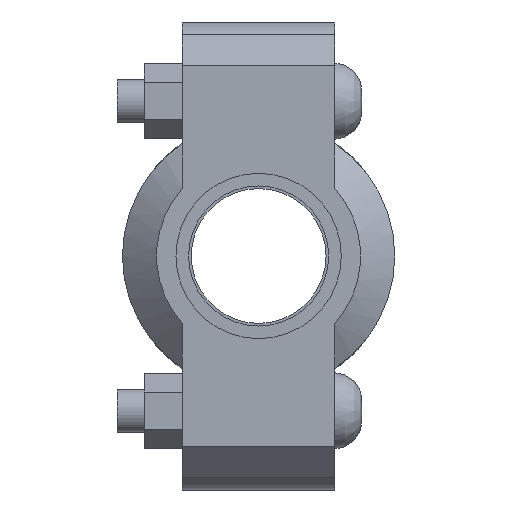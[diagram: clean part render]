
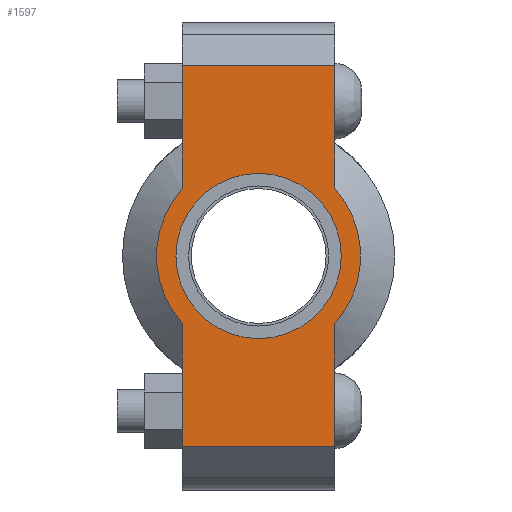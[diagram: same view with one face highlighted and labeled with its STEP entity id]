
A CAD part, left-side view. The second image highlights one B-rep face of the part: STEP entity #1597.
In plain terms, the highlighted planar face has unit normal (-1, 0, 0) as drawn and (0, 0, 1) by its records, which use the part's own axes.
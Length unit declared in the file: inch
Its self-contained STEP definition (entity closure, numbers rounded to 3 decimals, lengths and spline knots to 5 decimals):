
#152=LINE('',#2761,#249);
#167=LINE('',#2820,#264);
#175=LINE('',#2850,#272);
#177=LINE('',#2853,#274);
#178=LINE('',#2858,#275);
#179=LINE('',#2859,#276);
#249=VECTOR('',#2249,0.3937);
#264=VECTOR('',#2284,0.3937);
#272=VECTOR('',#2304,0.3937);
#274=VECTOR('',#2308,0.3937);
#275=VECTOR('',#2313,0.3937);
#276=VECTOR('',#2314,0.3937);
#340=FACE_BOUND('',#517,.T.);
#408=FACE_OUTER_BOUND('',#516,.T.);
#516=EDGE_LOOP('',(#1298,#1299,#1300,#1301,#1302,#1303,#1304,#1305));
#517=EDGE_LOOP('',(#1306));
#599=CIRCLE('',#1825,0.95);
#623=CIRCLE('',#1877,1.172);
#624=CIRCLE('',#1878,1.172);
#695=VERTEX_POINT('',#2587);
#736=VERTEX_POINT('',#2758);
#737=VERTEX_POINT('',#2760);
#758=VERTEX_POINT('',#2815);
#759=VERTEX_POINT('',#2819);
#768=VERTEX_POINT('',#2845);
#769=VERTEX_POINT('',#2849);
#770=VERTEX_POINT('',#2855);
#771=VERTEX_POINT('',#2857);
#859=EDGE_CURVE('',#695,#695,#599,.T.);
#916=EDGE_CURVE('',#737,#736,#152,.T.);
#941=EDGE_CURVE('',#759,#758,#167,.T.);
#954=EDGE_CURVE('',#769,#768,#175,.T.);
#956=EDGE_CURVE('',#769,#736,#177,.T.);
#957=EDGE_CURVE('',#768,#770,#623,.T.);
#958=EDGE_CURVE('',#770,#771,#178,.T.);
#959=EDGE_CURVE('',#759,#771,#179,.T.);
#960=EDGE_CURVE('',#758,#737,#624,.T.);
#1298=ORIENTED_EDGE('',*,*,#956,.F.);
#1299=ORIENTED_EDGE('',*,*,#954,.T.);
#1300=ORIENTED_EDGE('',*,*,#957,.T.);
#1301=ORIENTED_EDGE('',*,*,#958,.T.);
#1302=ORIENTED_EDGE('',*,*,#959,.F.);
#1303=ORIENTED_EDGE('',*,*,#941,.T.);
#1304=ORIENTED_EDGE('',*,*,#960,.T.);
#1305=ORIENTED_EDGE('',*,*,#916,.T.);
#1306=ORIENTED_EDGE('',*,*,#859,.T.);
#1437=PLANE('',#1876);
#1597=ADVANCED_FACE('',(#408,#340),#1437,.T.);
#1825=AXIS2_PLACEMENT_3D('',#2589,#2139,#2140);
#1876=AXIS2_PLACEMENT_3D('',#2854,#2309,#2310);
#1877=AXIS2_PLACEMENT_3D('',#2856,#2311,#2312);
#1878=AXIS2_PLACEMENT_3D('',#2860,#2315,#2316);
#2139=DIRECTION('center_axis',(0.,0.,-1.));
#2140=DIRECTION('ref_axis',(-1.,0.,0.));
#2249=DIRECTION('',(-1.,0.,0.));
#2284=DIRECTION('',(-1.,0.,0.));
#2304=DIRECTION('',(1.,0.,0.));
#2308=DIRECTION('',(0.,1.,0.));
#2309=DIRECTION('center_axis',(0.,0.,1.));
#2310=DIRECTION('ref_axis',(1.,0.,0.));
#2311=DIRECTION('center_axis',(0.,0.,1.));
#2312=DIRECTION('ref_axis',(-1.,0.,0.));
#2313=DIRECTION('',(1.,0.,0.));
#2314=DIRECTION('',(0.,-1.,0.));
#2315=DIRECTION('center_axis',(0.,0.,1.));
#2316=DIRECTION('ref_axis',(-1.,0.,0.));
#2587=CARTESIAN_POINT('',(0.95,0.,0.94));
#2589=CARTESIAN_POINT('Origin',(0.,0.,0.94));
#2758=CARTESIAN_POINT('',(-2.19,0.875,0.94));
#2760=CARTESIAN_POINT('',(-0.77972,0.875,0.94));
#2761=CARTESIAN_POINT('',(2.69,0.875,0.94));
#2815=CARTESIAN_POINT('',(0.77972,0.875,0.94));
#2819=CARTESIAN_POINT('',(2.19,0.875,0.94));
#2820=CARTESIAN_POINT('',(2.69,0.875,0.94));
#2845=CARTESIAN_POINT('',(-0.77972,-0.875,0.94));
#2849=CARTESIAN_POINT('',(-2.19,-0.875,0.94));
#2850=CARTESIAN_POINT('',(-2.69,-0.875,0.94));
#2853=CARTESIAN_POINT('',(-2.19,0.4375,0.94));
#2854=CARTESIAN_POINT('Origin',(0.,0.,0.94));
#2855=CARTESIAN_POINT('',(0.77972,-0.875,0.94));
#2856=CARTESIAN_POINT('Origin',(0.,0.,0.94));
#2857=CARTESIAN_POINT('',(2.19,-0.875,0.94));
#2858=CARTESIAN_POINT('',(-2.69,-0.875,0.94));
#2859=CARTESIAN_POINT('',(2.19,-0.4375,0.94));
#2860=CARTESIAN_POINT('Origin',(0.,0.,0.94));
